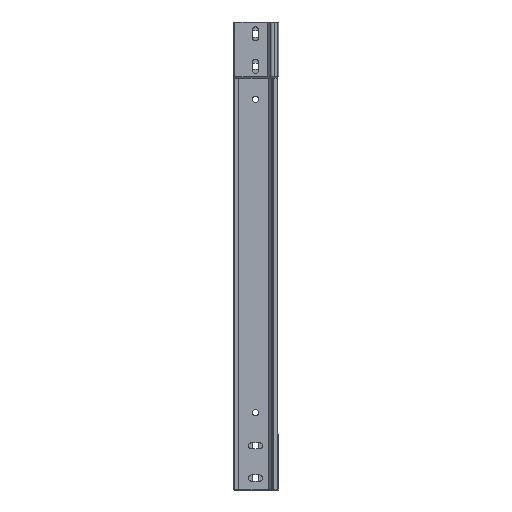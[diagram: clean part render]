
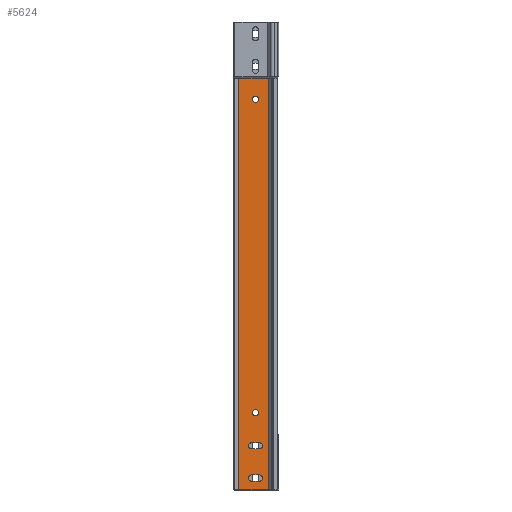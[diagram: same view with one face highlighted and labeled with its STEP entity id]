
A CAD part, left-side view. The second image highlights one B-rep face of the part: STEP entity #5624.
In plain terms, the highlighted planar face has unit normal (-1, 0, 0).
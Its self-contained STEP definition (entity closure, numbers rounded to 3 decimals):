
#8 = ORIENTED_EDGE ( 'NONE', *, *, #4337, .F. ) ;
#18 = EDGE_LOOP ( 'NONE', ( #5060, #793, #44, #1815 ) ) ;
#44 = ORIENTED_EDGE ( 'NONE', *, *, #6431, .T. ) ;
#84 = AXIS2_PLACEMENT_3D ( 'NONE', #1630, #3122, #645 ) ;
#148 = EDGE_LOOP ( 'NONE', ( #4520, #6307, #6062, #4324 ) ) ;
#184 = CIRCLE ( 'NONE', #4671, 4.5 ) ;
#238 = EDGE_CURVE ( 'NONE', #2651, #2514, #3972, .T. ) ;
#267 = ORIENTED_EDGE ( 'NONE', *, *, #2741, .F. ) ;
#317 = EDGE_LOOP ( 'NONE', ( #4031, #5189 ) ) ;
#339 = VECTOR ( 'NONE', #887, 1000. ) ;
#513 = DIRECTION ( 'NONE',  ( -1., 0., 0. ) ) ;
#578 = EDGE_CURVE ( 'NONE', #2859, #5408, #4013, .T. ) ;
#585 = CARTESIAN_POINT ( 'NONE',  ( 0., 0.5, 587. ) ) ;
#609 = DIRECTION ( 'NONE',  ( 0., 0., 1. ) ) ;
#623 = DIRECTION ( 'NONE',  ( 0., 1., 0. ) ) ;
#645 = DIRECTION ( 'NONE',  ( 0., 0., 1. ) ) ;
#662 = FACE_BOUND ( 'NONE', #148, .T. ) ;
#675 = CARTESIAN_POINT ( 'NONE',  ( 0., 35.5, 565.5 ) ) ;
#688 = DIRECTION ( 'NONE',  ( 0., 0., 1. ) ) ;
#729 = CARTESIAN_POINT ( 'NONE',  ( 0., 35.5, 570. ) ) ;
#786 = DIRECTION ( 'NONE',  ( 0., 0., 1. ) ) ;
#793 = ORIENTED_EDGE ( 'NONE', *, *, #5710, .F. ) ;
#832 = CIRCLE ( 'NONE', #2189, 4.5 ) ;
#887 = DIRECTION ( 'NONE',  ( 0., 1., 0. ) ) ;
#949 = VERTEX_POINT ( 'NONE', #2050 ) ;
#951 = CIRCLE ( 'NONE', #3553, 4.5 ) ;
#1071 = CARTESIAN_POINT ( 'NONE',  ( 0., 35.5, 519.5 ) ) ;
#1085 = CARTESIAN_POINT ( 'NONE',  ( 0., 30., 30. ) ) ;
#1125 = VERTEX_POINT ( 'NONE', #6101 ) ;
#1183 = FACE_BOUND ( 'NONE', #317, .T. ) ;
#1304 = EDGE_CURVE ( 'NONE', #5821, #2514, #2972, .T. ) ;
#1313 = LINE ( 'NONE', #4350, #5760 ) ;
#1396 = CIRCLE ( 'NONE', #6194, 4.5 ) ;
#1421 = EDGE_LOOP ( 'NONE', ( #6421, #267, #2508, #5443 ) ) ;
#1450 = DIRECTION ( 'NONE',  ( -1., 0., 0. ) ) ;
#1502 = VECTOR ( 'NONE', #5891, 1000. ) ;
#1616 = FACE_BOUND ( 'NONE', #2164, .T. ) ;
#1624 = DIRECTION ( 'NONE',  ( 0., 0., -1. ) ) ;
#1629 = VERTEX_POINT ( 'NONE', #2739 ) ;
#1630 = CARTESIAN_POINT ( 'NONE',  ( 0., 24.5, 524. ) ) ;
#1632 = DIRECTION ( 'NONE',  ( 0., 1., 0. ) ) ;
#1670 = CARTESIAN_POINT ( 'NONE',  ( 0., 0.5, 0. ) ) ;
#1682 = EDGE_CURVE ( 'NONE', #5358, #1629, #1396, .T. ) ;
#1753 = DIRECTION ( 'NONE',  ( 0., -1., 0. ) ) ;
#1815 = ORIENTED_EDGE ( 'NONE', *, *, #1304, .T. ) ;
#1850 = CARTESIAN_POINT ( 'NONE',  ( 0., 24.5, 519.5 ) ) ;
#1934 = CARTESIAN_POINT ( 'NONE',  ( 0., 24.5, 574.5 ) ) ;
#2050 = CARTESIAN_POINT ( 'NONE',  ( 0., 24.5, 528.5 ) ) ;
#2098 = CIRCLE ( 'NONE', #6067, 4.5 ) ;
#2106 = VERTEX_POINT ( 'NONE', #3143 ) ;
#2164 = EDGE_LOOP ( 'NONE', ( #8, #3754 ) ) ;
#2189 = AXIS2_PLACEMENT_3D ( 'NONE', #2297, #6316, #786 ) ;
#2192 = LINE ( 'NONE', #5098, #5440 ) ;
#2291 = CARTESIAN_POINT ( 'NONE',  ( 0., 36.25, 0. ) ) ;
#2297 = CARTESIAN_POINT ( 'NONE',  ( 0., 30., 477. ) ) ;
#2310 = DIRECTION ( 'NONE',  ( -1., 0., 0. ) ) ;
#2365 = CARTESIAN_POINT ( 'NONE',  ( 0., 30., 472.5 ) ) ;
#2371 = EDGE_CURVE ( 'NONE', #1629, #5358, #5456, .T. ) ;
#2508 = ORIENTED_EDGE ( 'NONE', *, *, #2960, .F. ) ;
#2514 = VERTEX_POINT ( 'NONE', #4219 ) ;
#2584 = CARTESIAN_POINT ( 'NONE',  ( 0., 0., 587. ) ) ;
#2603 = DIRECTION ( 'NONE',  ( 0., 0., 1. ) ) ;
#2605 = DIRECTION ( 'NONE',  ( -1., 0., 0. ) ) ;
#2651 = VERTEX_POINT ( 'NONE', #4700 ) ;
#2669 = CARTESIAN_POINT ( 'NONE',  ( 0., 0., 587. ) ) ;
#2739 = CARTESIAN_POINT ( 'NONE',  ( 0., 30., 34.5 ) ) ;
#2740 = VERTEX_POINT ( 'NONE', #2365 ) ;
#2741 = EDGE_CURVE ( 'NONE', #949, #4460, #4737, .T. ) ;
#2766 = DIRECTION ( 'NONE',  ( 0., 0., 1. ) ) ;
#2815 = CARTESIAN_POINT ( 'NONE',  ( 0., 48.166, 587. ) ) ;
#2859 = VERTEX_POINT ( 'NONE', #1071 ) ;
#2895 = VERTEX_POINT ( 'NONE', #1934 ) ;
#2960 = EDGE_CURVE ( 'NONE', #5408, #949, #5725, .T. ) ;
#2972 = LINE ( 'NONE', #5327, #1502 ) ;
#3013 = VECTOR ( 'NONE', #1753, 1000. ) ;
#3031 = CARTESIAN_POINT ( 'NONE',  ( 0., 24.5, 565.5 ) ) ;
#3079 = FACE_BOUND ( 'NONE', #1421, .T. ) ;
#3101 = EDGE_CURVE ( 'NONE', #2106, #6476, #3711, .T. ) ;
#3122 = DIRECTION ( 'NONE',  ( -1., 0., 0. ) ) ;
#3143 = CARTESIAN_POINT ( 'NONE',  ( 0., 35.5, 565.5 ) ) ;
#3195 = CARTESIAN_POINT ( 'NONE',  ( 0., 48.166, 0. ) ) ;
#3266 = CARTESIAN_POINT ( 'NONE',  ( 0., 44.194, 0. ) ) ;
#3322 = VECTOR ( 'NONE', #1632, 1000. ) ;
#3394 = CARTESIAN_POINT ( 'NONE',  ( 0., 35.5, 574.5 ) ) ;
#3412 = CARTESIAN_POINT ( 'NONE',  ( 0., 30., 25.5 ) ) ;
#3439 = DIRECTION ( 'NONE',  ( 0., 0., 1. ) ) ;
#3553 = AXIS2_PLACEMENT_3D ( 'NONE', #729, #3733, #1624 ) ;
#3667 = FACE_OUTER_BOUND ( 'NONE', #18, .T. ) ;
#3711 = LINE ( 'NONE', #675, #3013 ) ;
#3720 = CARTESIAN_POINT ( 'NONE',  ( 0., 24.332, 0. ) ) ;
#3733 = DIRECTION ( 'NONE',  ( -1., 0., 0. ) ) ;
#3737 = CARTESIAN_POINT ( 'NONE',  ( 0., 30., 30. ) ) ;
#3754 = ORIENTED_EDGE ( 'NONE', *, *, #4499, .F. ) ;
#3821 = DIRECTION ( 'NONE',  ( 0., 0., -1. ) ) ;
#3972 = B_SPLINE_CURVE_WITH_KNOTS ( 'NONE', 3,
 ( #1670, #6235, #6177, #3720, #2291, #3266, #3195 ),
 .UNSPECIFIED., .F., .F.,
 ( 4, 1, 1, 1, 4 ),
 ( 0., 0.25, 0.5, 0.75, 1. ),
 .UNSPECIFIED. ) ;
#4013 = LINE ( 'NONE', #6469, #4193 ) ;
#4031 = ORIENTED_EDGE ( 'NONE', *, *, #1682, .F. ) ;
#4079 = LINE ( 'NONE', #2669, #3322 ) ;
#4080 = DIRECTION ( 'NONE',  ( 0., -1., 0. ) ) ;
#4173 = EDGE_CURVE ( 'NONE', #2895, #4840, #2192, .T. ) ;
#4193 = VECTOR ( 'NONE', #4080, 1000. ) ;
#4219 = CARTESIAN_POINT ( 'NONE',  ( 0., 48.166, 0. ) ) ;
#4324 = ORIENTED_EDGE ( 'NONE', *, *, #3101, .F. ) ;
#4337 = EDGE_CURVE ( 'NONE', #1125, #2740, #832, .T. ) ;
#4350 = CARTESIAN_POINT ( 'NONE',  ( 0., 0.5, 587. ) ) ;
#4460 = VERTEX_POINT ( 'NONE', #5265 ) ;
#4499 = EDGE_CURVE ( 'NONE', #2740, #1125, #4798, .T. ) ;
#4520 = ORIENTED_EDGE ( 'NONE', *, *, #5105, .F. ) ;
#4639 = DIRECTION ( 'NONE',  ( -1., 0., 0. ) ) ;
#4671 = AXIS2_PLACEMENT_3D ( 'NONE', #5084, #2605, #609 ) ;
#4700 = CARTESIAN_POINT ( 'NONE',  ( 0., 0.5, 0. ) ) ;
#4737 = LINE ( 'NONE', #5394, #339 ) ;
#4779 = CARTESIAN_POINT ( 'NONE',  ( 0., 35.5, 524. ) ) ;
#4798 = CIRCLE ( 'NONE', #4905, 4.5 ) ;
#4840 = VERTEX_POINT ( 'NONE', #3394 ) ;
#4905 = AXIS2_PLACEMENT_3D ( 'NONE', #5485, #513, #2603 ) ;
#5060 = ORIENTED_EDGE ( 'NONE', *, *, #238, .F. ) ;
#5084 = CARTESIAN_POINT ( 'NONE',  ( 0., 24.5, 570. ) ) ;
#5098 = CARTESIAN_POINT ( 'NONE',  ( 0., 35.5, 574.5 ) ) ;
#5105 = EDGE_CURVE ( 'NONE', #4840, #2106, #951, .T. ) ;
#5131 = AXIS2_PLACEMENT_3D ( 'NONE', #2584, #4639, #688 ) ;
#5168 = PLANE ( 'NONE',  #5131 ) ;
#5189 = ORIENTED_EDGE ( 'NONE', *, *, #2371, .F. ) ;
#5265 = CARTESIAN_POINT ( 'NONE',  ( 0., 35.5, 528.5 ) ) ;
#5305 = DIRECTION ( 'NONE',  ( 0., 0., -1. ) ) ;
#5327 = CARTESIAN_POINT ( 'NONE',  ( 0., 48.166, 587. ) ) ;
#5358 = VERTEX_POINT ( 'NONE', #3412 ) ;
#5390 = EDGE_CURVE ( 'NONE', #4460, #2859, #2098, .T. ) ;
#5394 = CARTESIAN_POINT ( 'NONE',  ( 0., 35.5, 528.5 ) ) ;
#5408 = VERTEX_POINT ( 'NONE', #1850 ) ;
#5440 = VECTOR ( 'NONE', #623, 1000. ) ;
#5443 = ORIENTED_EDGE ( 'NONE', *, *, #578, .F. ) ;
#5456 = CIRCLE ( 'NONE', #6398, 4.5 ) ;
#5485 = CARTESIAN_POINT ( 'NONE',  ( 0., 30., 477. ) ) ;
#5624 = ADVANCED_FACE ( 'NONE', ( #1183, #1616, #3079, #662, #3667 ), #5168, .T. ) ;
#5710 = EDGE_CURVE ( 'NONE', #6126, #2651, #1313, .T. ) ;
#5725 = CIRCLE ( 'NONE', #84, 4.5 ) ;
#5740 = DIRECTION ( 'NONE',  ( -1., 0., 0. ) ) ;
#5760 = VECTOR ( 'NONE', #3821, 1000. ) ;
#5821 = VERTEX_POINT ( 'NONE', #2815 ) ;
#5891 = DIRECTION ( 'NONE',  ( 0., 0., -1. ) ) ;
#6062 = ORIENTED_EDGE ( 'NONE', *, *, #6452, .F. ) ;
#6067 = AXIS2_PLACEMENT_3D ( 'NONE', #4779, #2310, #5305 ) ;
#6101 = CARTESIAN_POINT ( 'NONE',  ( 0., 30., 481.5 ) ) ;
#6126 = VERTEX_POINT ( 'NONE', #585 ) ;
#6177 = CARTESIAN_POINT ( 'NONE',  ( 0., 12.415, 0. ) ) ;
#6194 = AXIS2_PLACEMENT_3D ( 'NONE', #3737, #5740, #2766 ) ;
#6235 = CARTESIAN_POINT ( 'NONE',  ( 0., 4.471, 0. ) ) ;
#6307 = ORIENTED_EDGE ( 'NONE', *, *, #4173, .F. ) ;
#6316 = DIRECTION ( 'NONE',  ( -1., 0., 0. ) ) ;
#6398 = AXIS2_PLACEMENT_3D ( 'NONE', #1085, #1450, #3439 ) ;
#6421 = ORIENTED_EDGE ( 'NONE', *, *, #5390, .F. ) ;
#6431 = EDGE_CURVE ( 'NONE', #6126, #5821, #4079, .T. ) ;
#6452 = EDGE_CURVE ( 'NONE', #6476, #2895, #184, .T. ) ;
#6469 = CARTESIAN_POINT ( 'NONE',  ( 0., 35.5, 519.5 ) ) ;
#6476 = VERTEX_POINT ( 'NONE', #3031 ) ;
